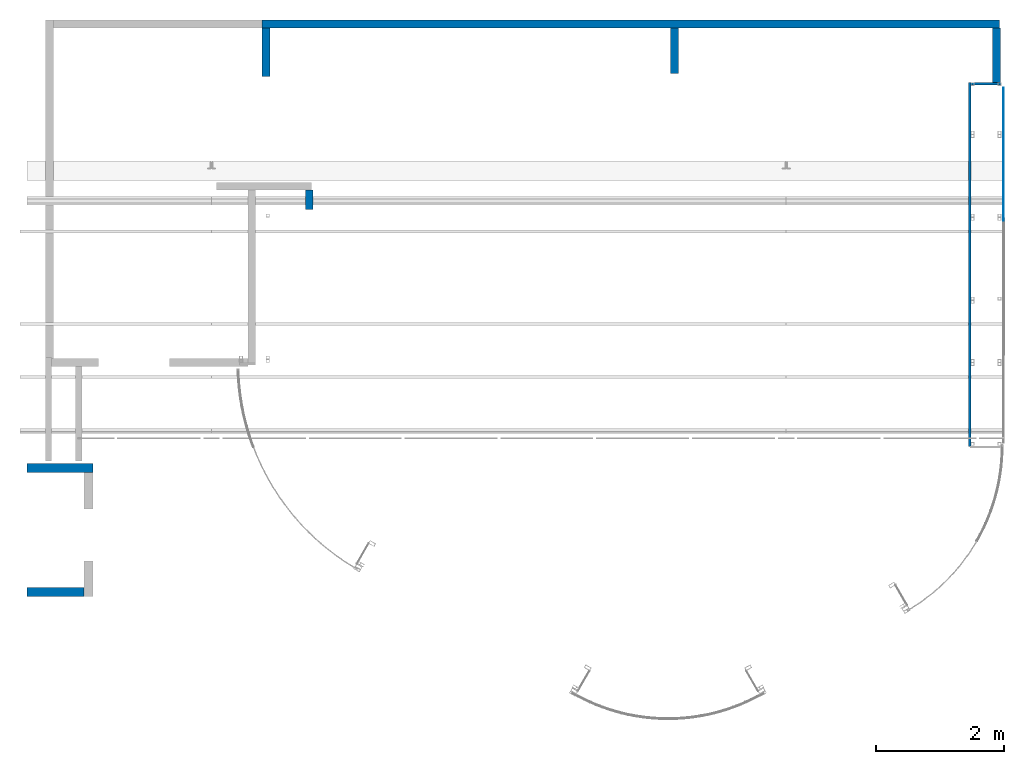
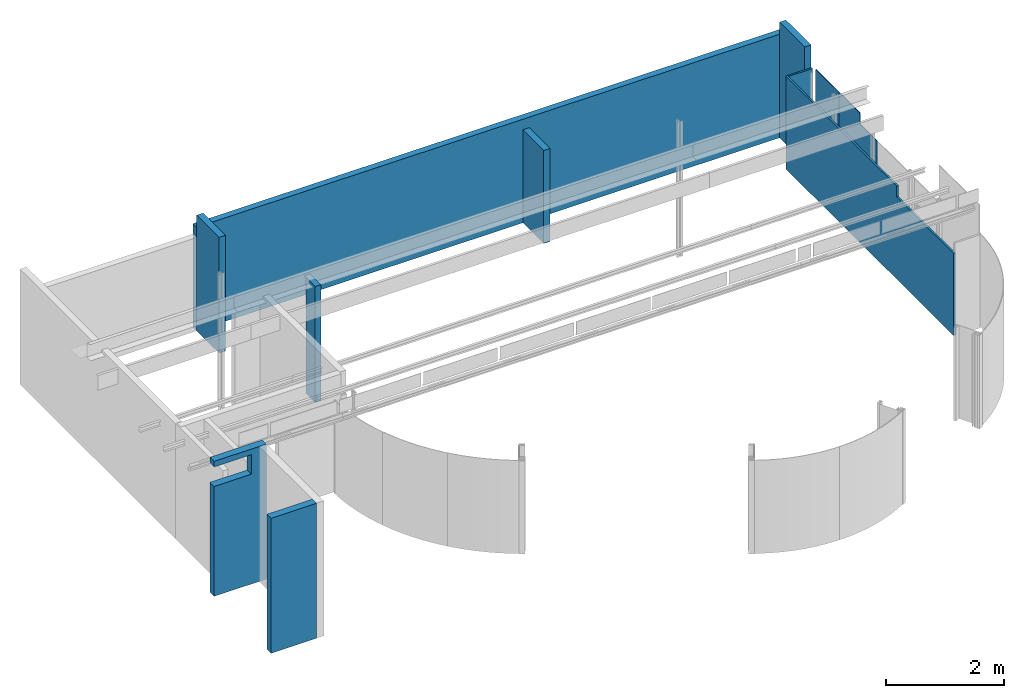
# One storey, part 8 of 11: 11 walls.
"""IFC2X3 building model written with IfcOpenShell, lengths in millimetres."""

from ifc_helpers import new_model, entity, si_unit, converted_unit, derived_unit, direction, frame, frame_2d, origin, origin_with_axes, place, context, subcontext, project, spatial, rectangle, extrude, clip, halfspace, faceted_brep, material, layer, layer_set, layer_usage, type_object, element, save


model = new_model("IFC2X3")

# Units and contexts
model_context = context("Model", 3, precision=0.01, world=frame((0.0, 4.29681676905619e-09, 0.0)), true_north=direction((4.01073788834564e-13, 1.0)))
plan_context = context("Plan", 3, precision=0.01, world=frame((0.0, 4.29681676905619e-09, 0.0)), true_north=direction((4.01073788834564e-13, 1.0)))
body_context = subcontext(model_context, "Body", "Model", "MODEL_VIEW")
ifc_project = project(units=[converted_unit("PLANEANGLEUNIT", "DEGREE", entity("IfcPositiveLengthMeasure", 0.0174532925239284), si_unit("PLANEANGLEUNIT", "RADIAN"), dimensions=[0, 0, 0, 0, 0, 0, 0]), si_unit("AREAUNIT", "SQUARE_METRE"), si_unit("LENGTHUNIT", "METRE", prefix="MILLI"), si_unit("MASSUNIT", "GRAM", prefix="KILO"), si_unit("POWERUNIT", "WATT"), si_unit("PRESSUREUNIT", "PASCAL"), si_unit("FORCEUNIT", "NEWTON", prefix="KILO"), si_unit("ELECTRICVOLTAGEUNIT", "VOLT"), si_unit("ELECTRICCURRENTUNIT", "AMPERE"), si_unit("THERMODYNAMICTEMPERATUREUNIT", "DEGREE_CELSIUS"), si_unit("TIMEUNIT", "SECOND"), si_unit("VOLUMEUNIT", "CUBIC_METRE"), derived_unit("LINEARVELOCITYUNIT", [(si_unit("LENGTHUNIT", "METRE"), 1), (si_unit("TIMEUNIT", "SECOND"), -1)]), derived_unit("VOLUMETRICFLOWRATEUNIT", [(si_unit("VOLUMEUNIT", "CUBIC_METRE"), 1), (si_unit("TIMEUNIT", "SECOND"), -1)]), derived_unit("THERMALTRANSMITTANCEUNIT", [(si_unit("POWERUNIT", "WATT"), 1), (si_unit("THERMODYNAMICTEMPERATUREUNIT", "KELVIN"), -1), (si_unit("AREAUNIT", "SQUARE_METRE"), -1)]), derived_unit("SOUNDPRESSUREUNIT", [(si_unit("PRESSUREUNIT", "PASCAL"), 1)])], contexts=[model_context, plan_context])

# Site, building, storey
site_placement = place(None, origin_with_axes())
site = spatial("IfcSite", under=ifc_project, at=site_placement, Name="ENGM", CompositionType="ELEMENT")
building_placement = place(site_placement, origin_with_axes())
building = spatial("IfcBuilding", under=site, at=building_placement, Name="TH", CompositionType="ELEMENT")
storey_placement = place(building_placement, frame((0.0, 0.0, 210900.0), z_axis=(0.0, 0.0, 1.0), x_axis=(1.0, 0.0, 0.0)))
storey = spatial("IfcBuildingStorey", under=building, at=storey_placement, Name="Nivå F", CompositionType="ELEMENT", Elevation=210900.0)

# Walls
ifc_material_1 = material(Name="T2_Gips Protect F")
ifc_layer_1 = layer(ifc_material_1, 15.0)
ifc_material_2 = material(Name="T2_Gips Standard")
ifc_layer_2 = layer(ifc_material_2, 12.5)
ifc_material_3 = material(Name="_NSW Stålstender, uisolert")
ifc_layer_3 = layer(ifc_material_3, 100.0)
ifc_layer_4 = layer(ifc_material_1, 15.0)
ifc_layer_set_1 = layer_set([ifc_layer_1, ifc_layer_2, ifc_layer_3, ifc_layer_4], Name="Basic Wall:A241 - FSVF-100 (100/100 ps-p)")
wall_type_1 = type_object("IfcWallType", Name="Basic Wall:A241 - FSVF-100 (100/100 ps-p)", PredefinedType="STANDARD", material=ifc_layer_set_1)
wall_1_placement = place(storey_placement, frame((893845.250000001, 480342.499999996, 0.0), z_axis=(0.0, 0.0, 1.0), x_axis=(1.0, 0.0, 0.0)))
element("IfcWall", 1, at=wall_1_placement, inside=storey, type_object=wall_type_1, Name="Basic Wall:A241 - FSVF-100 (100/100 ps-p)", ObjectType="Basic Wall:A241 - FSVF-100 (100/100 ps-p)", context=body_context, shape_type="Brep", body=[
    faceted_brep([(1266.65616856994, -71.2500000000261, 0.0), (1266.65616856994, -71.2500000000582, 2280.0), (1999.41718749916, -71.2500000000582, 2280.0), (1999.41718749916, -71.2500000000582, 2685.0), (1266.65616856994, -71.2500000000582, 2685.0), (1266.65616856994, -71.2500000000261, 2800.0), (2297.2499999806, -71.25, 2800.0), (2297.2499999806, -71.25, 0.0), (1266.65616856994, 71.2499999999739, 2800.0), (1266.65616856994, 71.2499999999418, 2685.0), (1999.4171874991, 71.2499999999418, 2685.0), (1999.4171874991, 71.2499999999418, 2280.0), (1266.65616856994, 71.2499999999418, 2280.0), (1266.65616856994, 71.2499999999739, 0.0), (2297.24999998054, 71.25, 0.0), (2297.24999998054, 71.25, 2800.0)], [[[0, 1, 2, 3, 4, 5, 6, 7]], [[8, 9, 10, 11, 12, 13, 14, 15]], [[1, 12, 11, 2]], [[11, 10, 3, 2]], [[9, 4, 3, 10]], [[15, 14, 7, 6]], [[5, 8, 15, 6]], [[13, 0, 7, 14]], [[13, 12, 1, 0]], [[9, 8, 5, 4]]], orient=[[False], [False], [False], [False], [False], [False], [False], [False], [False], [False]]),
])
wall_2_placement = place(storey_placement, frame((895999.99999998, 478397.499999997, 0.0), z_axis=(0.0, 0.0, 1.0), x_axis=(-1.0, 0.0, 0.0)))
element("IfcWall", 2, at=wall_2_placement, inside=storey, type_object=wall_type_1, Name="Basic Wall:A241 - FSVF-100 (100/100 ps-p)", ObjectType="Basic Wall:A241 - FSVF-100 (100/100 ps-p)", context=body_context, shape_type="Brep", body=[
    faceted_brep([(888.093831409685, 71.2499999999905, 0.0), (888.093831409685, 71.2499999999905, 2799.99999999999), (0.0, 71.2499999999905, 2799.99999999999), (0.0, 71.2499999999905, 0.0), (0.0, -71.2500000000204, 2799.99999999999), (0.0, -71.2500000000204, 0.0), (888.093831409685, -71.2500000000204, 2799.99999999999), (888.093831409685, -71.2500000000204, 0.0)], [[[0, 1, 2, 3]], [[3, 2, 4, 5]], [[6, 7, 5, 4]], [[7, 0, 3, 5]], [[1, 6, 4, 2]], [[7, 6, 1, 0]]], orient=[[False], [False], [False], [False], [False], [False]]),
])
ifc_material_4 = material(Name="Kledning")
ifc_layer_5 = layer(ifc_material_4, 14.0)
ifc_layer_set_2 = layer_set([ifc_layer_5], Name="Basic Wall:A242 - IGV Glass Opal 14mm")
wall_type_2 = type_object("IfcWallType", Name="Basic Wall:A242 - IGV Glass Opal 14mm", PredefinedType="STANDARD", material=ifc_layer_set_2)
wall_3_placement = place(storey_placement, frame((910403.584841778, 484210.393078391, 0.0), z_axis=(0.0, 0.0, 1.0), x_axis=(0.0, 1.0, 0.0)))
element("IfcWall", 3, at=wall_3_placement, inside=storey, type_object=wall_type_2, Name="Basic Wall:A242 - IGV Glass Opal 14mm", ObjectType="Basic Wall:A242 - IGV Glass Opal 14mm", context=body_context, shape_type="Brep", body=[
    faceted_brep([(1292.0, -7.0, 1930.0), (581.026787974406, -7.0, 1930.0), (581.026787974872, -7.0, 1705.0), (0.0, -7.0, 1705.0), (0.0, -7.0, 0.0), (1292.0, -7.0, 0.0), (0.0, 7.0, 1705.0), (581.026787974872, 7.0, 1705.0), (581.026787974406, 7.0, 1930.0), (1292.0, 7.0, 1930.0), (1292.0, 7.0, 0.0), (0.0, 7.0, 0.0)], [[[0, 1, 2, 3, 4, 5]], [[6, 7, 8, 9, 10, 11]], [[9, 0, 5, 10]], [[1, 0, 9, 8]], [[3, 6, 11, 4]], [[2, 1, 8, 7]], [[3, 2, 7, 6]], [[5, 4, 11, 10]]]),
])
ifc_layer_usage_1 = layer_usage(ifc_layer_set_2, "AXIS2", "NEGATIVE", 7.0)
wall_4_placement = place(storey_placement, frame((910403.584841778, 485506.393078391, 0.0), z_axis=(0.0, 0.0, 1.0), x_axis=(0.0, 1.0, 0.0)))
element("IfcWallStandardCase", 4, at=wall_4_placement, inside=storey, type_object=wall_type_2, material=ifc_layer_usage_1, Name="Basic Wall:A242 - IGV Glass Opal 14mm", ObjectType="Basic Wall:A242 - IGV Glass Opal 14mm", context=body_context, shape_type="Clipping", body=[
    clip(extrude(rectangle(XDim=790.305854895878, YDim=13.9999999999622, at=frame_2d((395.152927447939, 0.0), x_axis=(-1.0, 0.0))), origin(), (0.0, 0.0, 1.0), 1929.99999999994), halfspace(frame((0.0, 0.0, -700.0)), True)),
])
ifc_layer_6 = layer(ifc_material_1, 12.5)
ifc_material_5 = material(Name="T2_X-finer")
ifc_layer_7 = layer(ifc_material_5, 12.0)
ifc_layer_8 = layer(ifc_material_5, 12.0)
ifc_layer_set_3 = layer_set([ifc_layer_6, ifc_layer_7, ifc_layer_8], Name="Basic Wall:A241 - FFS")
wall_type_3 = type_object("IfcWallType", Name="Basic Wall:A241 - FFS", PredefinedType="STANDARD", material=ifc_layer_set_3)
wall_5_placement = place(storey_placement, frame((909876.749999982, 480675.013105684, 0.0), z_axis=(0.0, 0.0, 1.0), x_axis=(0.0, 1.0, 0.0)))
element("IfcWall", 5, at=wall_5_placement, inside=storey, type_object=wall_type_3, Name="Basic Wall:A241 - FFS", ObjectType="Basic Wall:A241 - FFS", context=body_context, shape_type="Brep", body=[
    faceted_brep([(5705.0, -18.2500000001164, 1930.0), (5668.50000000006, -18.2500000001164, 1930.0), (1936.40676067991, -18.2500000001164, 1930.0), (1936.40676068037, -18.2500000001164, 1705.0), (0.0, -18.2500000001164, 1705.0), (0.0, -18.2500000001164, 0.0), (5705.0, -18.2500000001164, 0.0), (0.0, 18.2499999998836, 1705.0), (1936.40676068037, 18.2499999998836, 1705.0), (1936.40676067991, 18.2499999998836, 1930.0), (5705.0, 18.2499999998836, 1930.0), (5705.0, 18.2499999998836, 0.0), (0.0, 18.2499999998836, 0.0)], [[[0, 1, 2, 3, 4, 5, 6]], [[7, 8, 9, 10, 11, 12]], [[10, 0, 6, 11]], [[1, 0, 10, 9, 2]], [[4, 7, 12, 5]], [[3, 2, 9, 8]], [[4, 3, 8, 7]], [[6, 5, 12, 11]]]),
])
ifc_layer_usage_2 = layer_usage(ifc_layer_set_3, "AXIS2", "POSITIVE", -18.25)
wall_6_placement = place(storey_placement, frame((910365.000000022, 486361.763105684, 0.0), z_axis=(0.0, 0.0, 1.0), x_axis=(-1.0, 0.0, 0.0)))
element("IfcWallStandardCase", 6, at=wall_6_placement, inside=storey, type_object=wall_type_3, material=ifc_layer_usage_2, Name="Basic Wall:A241 - FFS", ObjectType="Basic Wall:A241 - FFS", context=body_context, shape_type="Clipping", body=[
    clip(extrude(rectangle(XDim=470.00000004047, YDim=36.5000000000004, at=frame_2d((235.000000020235, 0.0), x_axis=(-1.0, 0.0))), origin(), (0.0, 0.0, 1.0), 1929.99999999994), halfspace(frame((0.0, 0.0, -700.0)), True)),
])
ifc_material_6 = material(Name="Plate - Gips")
ifc_layer_9 = layer(ifc_material_6, 12.5)
ifc_material_7 = material(Name="_NSW X-finer")
ifc_layer_10 = layer(ifc_material_7, 12.5)
ifc_material_8 = material(Name="_NSW Isolasjon")
ifc_layer_11 = layer(ifc_material_8, 75.0)
ifc_layer_12 = layer(ifc_material_7, 12.5)
ifc_layer_13 = layer(ifc_material_6, 12.5)
ifc_layer_set_4 = layer_set([ifc_layer_9, ifc_layer_10, ifc_layer_11, ifc_layer_12, ifc_layer_13], Name="Basic Wall:A241 - SXVXS-75")
ifc_layer_usage_3 = layer_usage(ifc_layer_set_4, "AXIS2", "NEGATIVE", 62.5)
wall_type_4 = type_object("IfcWallType", Name="Basic Wall:A241 - SXVXS-75", PredefinedType="STANDARD", material=ifc_layer_set_4)
wall_7_placement = place(storey_placement, frame((898791.499999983, 487295.150000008, 0.0), z_axis=(0.0, 0.0, 1.0), x_axis=(1.0, 0.0, 0.0)))
element("IfcWallStandardCase", 7, at=wall_7_placement, inside=storey, type_object=wall_type_4, material=ifc_layer_usage_3, Name="Basic Wall:A241 - SXVXS-75", ObjectType="Basic Wall:A241 - SXVXS-75", context=body_context, shape_type="Clipping", body=[
    clip(extrude(rectangle(XDim=11550.0000000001, YDim=124.999999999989, at=frame_2d((5775.00000000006, 4.67572647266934e-11), x_axis=(-1.0, 0.0))), origin(), (0.0, 0.0, 1.0), 2148.3316376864), halfspace(frame((0.0, 0.0, -700.0)), True)),
])
ifc_layer_usage_4 = layer_usage(ifc_layer_set_4, "AXIS2", "NEGATIVE", 62.5)
wall_8_placement = place(storey_placement, frame((910291.584841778, 487232.650000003, 0.0), z_axis=(0.0, 0.0, 1.0), x_axis=(0.0, -1.0, 0.0)))
element("IfcWallStandardCase", 8, at=wall_8_placement, inside=storey, type_object=wall_type_4, material=ifc_layer_usage_4, Name="Basic Wall:A241 - SXVXS-75", ObjectType="Basic Wall:A241 - SXVXS-75", context=body_context, shape_type="Clipping", body=[
    clip(extrude(rectangle(XDim=852.636894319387, YDim=125.000000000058, at=frame_2d((426.318447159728, 0.0), x_axis=(-1.0, 0.0))), origin(), (0.0, 0.0, 1.0), 2399.99999999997), halfspace(frame((0.0, 0.0, -700.0)), True)),
])
ifc_layer_usage_5 = layer_usage(ifc_layer_set_4, "AXIS2", "POSITIVE", -62.5)
wall_9_placement = place(storey_placement, frame((898853.999999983, 487232.650000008, 0.0), z_axis=(0.0, 0.0, 1.0), x_axis=(0.0, -1.0, 0.0)))
element("IfcWallStandardCase", 9, at=wall_9_placement, inside=storey, type_object=wall_type_4, material=ifc_layer_usage_5, Name="Basic Wall:A241 - SXVXS-75", ObjectType="Basic Wall:A241 - SXVXS-75", context=body_context, shape_type="Clipping", body=[
    clip(extrude(rectangle(XDim=762.349048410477, YDim=125.000000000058, at=frame_2d((381.174524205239, 0.0), x_axis=(-1.0, 0.0))), origin(), (0.0, 0.0, 1.0), 2399.99999999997), halfspace(frame((0.0, 0.0, -700.0)), True)),
])
ifc_layer_usage_6 = layer_usage(ifc_layer_set_4, "AXIS2", "NEGATIVE", 62.5)
wall_10_placement = place(storey_placement, frame((905253.584841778, 487232.650000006, 0.0), z_axis=(0.0, 0.0, 1.0), x_axis=(0.0, -1.0, 0.0)))
element("IfcWallStandardCase", 10, at=wall_10_placement, inside=storey, type_object=wall_type_4, material=ifc_layer_usage_6, Name="Basic Wall:A241 - SXVXS-75", ObjectType="Basic Wall:A241 - SXVXS-75", context=body_context, shape_type="Clipping", body=[
    clip(extrude(rectangle(XDim=710.00000000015, YDim=125.000000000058, at=frame_2d((355.00000000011, 0.0), x_axis=(-1.0, 0.0))), origin(), (0.0, 0.0, 1.0), 1929.99999999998), halfspace(frame((0.0, 0.0, -700.0)), True)),
])
ifc_layer_14 = layer(ifc_material_6, 12.5)
ifc_layer_15 = layer(ifc_material_3, 75.0)
ifc_layer_16 = layer(ifc_material_6, 12.5)
ifc_layer_17 = layer(ifc_material_6, 12.5)
ifc_layer_set_5 = layer_set([ifc_layer_14, ifc_layer_15, ifc_layer_16, ifc_layer_17], Name="Basic Wall:A241 - RVR-77 (75/75 r-rr)")
wall_type_5 = type_object("IfcWallType", Name="Basic Wall:A241 - RVR-77 (75/75 r-rr)", PredefinedType="STANDARD", material=ifc_layer_set_5)
wall_11_placement = place(storey_placement, frame((899529.249609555, 484388.405859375, 0.0), z_axis=(0.0, 0.0, 1.0), x_axis=(0.0, 1.0, 0.0)))
element("IfcWall", 11, at=wall_11_placement, inside=storey, type_object=wall_type_5, Name="Basic Wall:A241 - RVR-77 (75/75 r-rr)", ObjectType="Basic Wall:A241 - RVR-77 (75/75 r-rr)", context=body_context, shape_type="Brep", body=[
    faceted_brep([(308.405859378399, -56.25, 1700.0), (368.75, -56.25, 1700.0), (368.750000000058, -56.25, 2400.0), (368.750000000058, -56.25, 2405.0), (0.0, -56.25, 2405.0), (0.0, -56.25, 0.0), (308.405859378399, -56.25, 0.0), (0.0, 56.25, 2405.0), (368.750000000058, 56.25, 2405.0), (368.750000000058, 56.25, 2400.0), (308.405859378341, 56.25, 2400.0), (308.405859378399, 56.25, 1700.0), (308.405859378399, 56.25, 0.0), (0.0, 56.25, 0.0), (308.405859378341, -37.891926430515, 1700.0), (368.75, -37.891926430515, 1700.0), (368.75, -37.891926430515, 2400.0), (308.405859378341, -37.891926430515, 2400.0)], [[[0, 1, 2, 3, 4, 5, 6]], [[7, 8, 9, 10, 11, 12, 13]], [[4, 3, 8, 7]], [[4, 7, 13, 5]], [[1, 0, 14, 15]], [[10, 9, 16, 17]], [[14, 0, 6, 12, 11]], [[2, 1, 15, 16]], [[15, 14, 17, 16]], [[11, 10, 17, 14]], [[3, 2, 16, 9, 8]], [[6, 5, 13, 12]]]),
])

save(model, "model.ifc")
